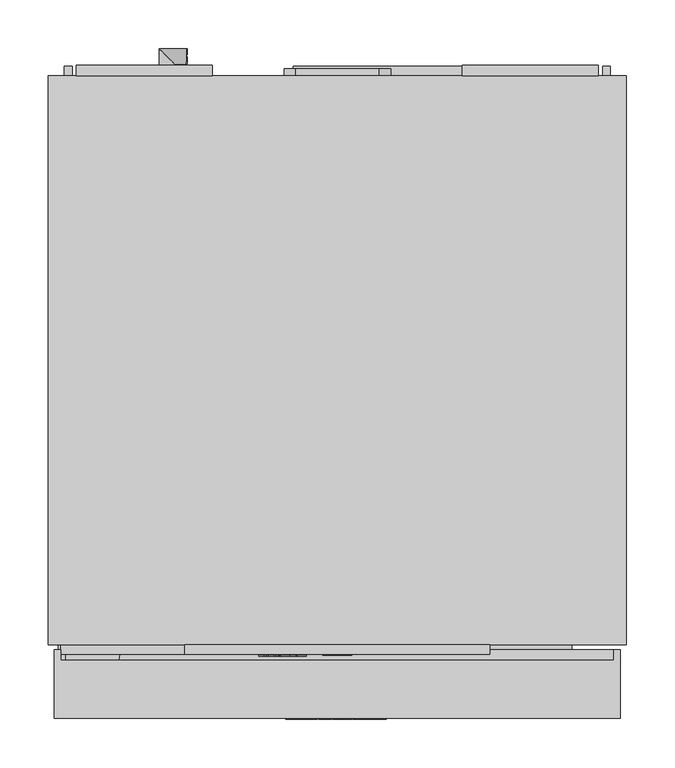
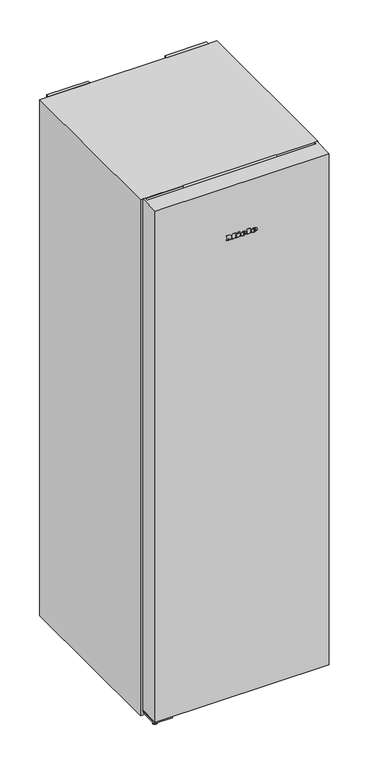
"""IFC4 building model written with IfcOpenShell, lengths in millimetres: proxy geometry, 12430410_EU1_FNS4382D_WS : 37438244_EU1_12430410_FNS4382D_WS."""

from ifc_helpers import new_model, si_unit, point, frame, frame_2d, origin, origin_with_axes, place, context, project, spatial, polyline, circle_curve, ellipse_curve, trimmed, segment, composite_curve, outline, extrude, faceted_brep, source, transform, mapped, element, save
from ifc_brep_helpers import plane_surface, cylinder_surface, revolved_surface, extruded_surface, advanced_brep


def specialty_equipment_e65e2c74(model_context):
    return source(origin(), model_context, "Body", "SolidModel", [
        extrude(outline(polyline([(15.0, -609.5), (-15.0, -609.5), (-15.0, -606.5), (15.0, -606.5), (15.0, -609.5)])), frame((0.0, 0.0, 1812.0), z_axis=(0.0, 0.0, 1.0), x_axis=(1.0, 0.0, 0.0)), (0.0, 0.0, 1.0), 28.0),
        extrude(outline(polyline([(1845.5, 105.0), (1845.5, -105.0), (1806.5, -105.0), (1806.5, 105.0), (1845.5, 105.0)]), holes=[polyline([(1840.0, -15.0), (1840.0, 15.0), (1812.0, 15.0), (1812.0, -15.0), (1840.0, -15.0)])]), frame((0.0, -608.5, 0.0), z_axis=(0.0, 1.0, 0.0), x_axis=(0.0, 0.0, 1.0)), (0.0, 0.0, 1.0), 2.0),
        faceted_brep([(157.5, -598.5, 1802.0), (157.5, -608.5, 1802.0), (-157.5, -608.5, 1802.0), (-157.5, -598.5, 1802.0), (157.5, -598.5, 1850.0), (-157.5, -598.5, 1850.0), (-157.5, -608.5, 1850.0), (157.5, -608.5, 1850.0), (-105.0, -608.5, 1845.5), (105.0, -608.5, 1845.5), (105.0, -608.5, 1806.5), (-105.0, -608.5, 1806.5), (105.0, -606.5, 1845.5), (-105.0, -606.5, 1845.5), (-105.0, -606.5, 1806.5), (105.0, -606.5, 1806.5)], [[[0, 1, 2, 3]], [[4, 5, 6, 7]], [[0, 3, 5, 4]], [[3, 2, 6, 5]], [[2, 1, 7, 6], [8, 9, 10, 11]], [[1, 0, 4, 7]], [[12, 13, 14, 15]], [[13, 12, 9, 8]], [[14, 13, 8, 11]], [[15, 14, 11, 10]], [[12, 15, 10, 9]]]),
        advanced_brep(
        [(39.0804776, -675.5, 1668.7956125), (39.0804776, -675.5, 1670.5126125), (50.4534776, -675.5, 1670.5126125), (30.6654776, -675.5, 1670.5126125), (35.3404776, -675.5, 1664.7666125), (50.1644776, -675.5, 1668.7956125), (45.0304776, -675.5, 1668.7956125), (40.9844776, -675.5, 1666.8916125), (39.0804776, -675.5, 1672.6886125), (39.0804776, -675.5, 1674.5416125), (41.9874776, -675.5, 1674.5416125), (41.9874776, -675.5, 1672.6886125), (39.0804776, -674.5, 1668.7956125), (40.9844776, -674.5, 1666.8916125), (45.0304776, -674.5, 1668.7956125), (50.1644776, -674.5, 1668.7956125), (35.3404776, -674.5, 1664.7666125), (30.6654776, -674.5, 1670.5126125), (50.4534776, -674.5, 1670.5126125), (39.0804776, -674.5, 1670.5126125), (39.0804776, -674.5, 1672.6886125), (41.9874776, -674.5, 1672.6886125), (41.9874776, -674.5, 1674.5416125), (39.0804776, -674.5, 1674.5416125)],
        [
            (0, 1),
            (1, 2),
            (2, 3, ellipse_curve(frame((40.5594776, -675.5, 1670.5126125), z_axis=(0.0, -1.0, 0.0), x_axis=(-1.0, 0.0, 0.0)), 9.894, 8.177)),
            (3, 4, circle_curve(frame((37.2445704, -675.5, 1671.0906125), z_axis=(0.0, -1.0, 0.0), x_axis=(0.0, 0.0, -1.0)), 6.6044337)),
            (4, 5, circle_curve(frame((40.361414, -675.5, 1675.5786125), z_axis=(0.0, -1.0, 0.0), x_axis=(0.0, 0.0, -1.0)), 11.9209541)),
            (5, 6),
            (6, 7, circle_curve(frame((41.8154776, -675.5, 1670.3766125), z_axis=(0.0, 1.0, 0.0), x_axis=(0.0, 0.0, -1.0)), 3.5827065)),
            (7, 0, circle_curve(frame((40.9844776, -675.5, 1668.7956125), z_axis=(0.0, 1.0, 0.0), x_axis=(0.0, 0.0, -1.0)), 1.904)),
            (8, 9),
            (9, 10, circle_curve(frame((40.5339776, -675.5, 1674.5416125), z_axis=(0.0, 1.0, 0.0), x_axis=(0.0, 0.0, -1.0)), 1.4535)),
            (10, 11),
            (11, 8),
            (12, 13, circle_curve(frame((40.9844776, -674.5, 1668.7956125), z_axis=(0.0, -1.0, 0.0), x_axis=(0.0, 0.0, -1.0)), 1.904)),
            (13, 14, circle_curve(frame((41.8154776, -674.5, 1670.3766125), z_axis=(0.0, -1.0, 0.0), x_axis=(0.0, 0.0, -1.0)), 3.5827065)),
            (14, 15),
            (15, 16, circle_curve(frame((40.361414, -674.5, 1675.5786125), z_axis=(0.0, 1.0, 0.0), x_axis=(0.0, 0.0, -1.0)), 11.9209541)),
            (16, 17, circle_curve(frame((37.2445704, -674.5, 1671.0906125), z_axis=(0.0, 1.0, 0.0), x_axis=(0.0, 0.0, -1.0)), 6.6044337)),
            (17, 18, ellipse_curve(frame((40.5594776, -674.5, 1670.5126125), z_axis=(0.0, 1.0, 0.0), x_axis=(-1.0, 0.0, 0.0)), 9.894, 8.177)),
            (18, 19),
            (19, 12),
            (20, 21),
            (21, 22),
            (22, 23, circle_curve(frame((40.5339776, -674.5, 1674.5416125), z_axis=(0.0, -1.0, 0.0), x_axis=(0.0, 0.0, -1.0)), 1.4535)),
            (23, 20),
            (0, 12),
            (19, 1),
            (18, 2),
            (5, 15),
            (14, 6),
            (17, 3),
            (13, 7),
            (16, 4),
            (8, 20),
            (23, 9),
            (22, 10),
            (21, 11),
        ],
        [
            plane_surface(frame((39.0804776, -675.5, 1670.5126125), z_axis=(0.0, -1.0, 0.0), x_axis=(0.0, 0.0, 1.0))),
            plane_surface(frame((39.0804776, -674.5, 1670.5126125), z_axis=(0.0, 1.0, 0.0), x_axis=(0.0, 0.0, -1.0))),
            plane_surface(frame((39.0804776, -675.5, 1668.7956125), z_axis=(1.0, 0.0, 0.0), x_axis=(0.0, 1.0, 0.0))),
            plane_surface(frame((39.0804776, -675.5, 1670.5126125), z_axis=(0.0, 0.0, -1.0), x_axis=(0.0, 1.0, 0.0))),
            plane_surface(frame((50.1644776, -675.5, 1668.7956125), z_axis=(0.0, 0.0, 1.0), x_axis=(0.0, 1.0, 0.0))),
            extruded_surface(trimmed(ellipse_curve(frame((40.5594776, -673.5, 1670.5126125), z_axis=(0.0, -1.0, 0.0), x_axis=(-1.0, 0.0, 0.0)), 9.894, 8.177), [point((50.4534776, -673.5, 1670.5126125))], [point((30.6654776, -673.5, 1670.5126125))], True, "CARTESIAN"), (0.0, -1.0, 0.0), 1.0),
            revolved_surface(polyline([(41.8154776, -674.5, 1666.7939059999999), (41.8154776, -675.5, 1666.7939059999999)]), (41.8154776, -674.5, 1670.3766125), (0.0, 1.0, 0.0)),
            revolved_surface(polyline([(40.9844776, -674.5, 1666.8916125), (40.9844776, -675.5, 1666.8916125)]), (40.9844776, -674.5, 1668.7956125), (0.0, 1.0, 0.0)),
            cylinder_surface(frame((37.2445704, -674.5, 1671.0906125), z_axis=(0.0, -1.0, 0.0), x_axis=(0.0, 0.0, -1.0)), 6.6044337),
            cylinder_surface(frame((40.361414, -674.5, 1675.5786125), z_axis=(0.0, -1.0, 0.0), x_axis=(0.0, 0.0, -1.0)), 11.9209541),
            plane_surface(frame((39.0804776, -675.5, 1672.6886125), z_axis=(1.0, 0.0, 0.0), x_axis=(0.0, 1.0, 0.0))),
            revolved_surface(polyline([(40.5339776, -674.5, 1673.0881124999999), (40.5339776, -675.5, 1673.0881124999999)]), (40.5339776, -674.5, 1674.5416125), (0.0, 1.0, 0.0)),
            plane_surface(frame((41.9874776, -675.5, 1674.5416125), z_axis=(-1.0, 0.0, 0.0), x_axis=(0.0, 1.0, 0.0))),
            plane_surface(frame((41.9874776, -675.5, 1672.6886125), z_axis=(0.0, 0.0, 1.0), x_axis=(0.0, 1.0, 0.0))),
        ],
        [
            (0, [[1, 2, 3, 4, 5, 6, 7, 8], [9, 10, 11, 12]]),
            (1, [[13, 14, 15, 16, 17, 18, 19, 20], [21, 22, 23, 24]]),
            (2, [[-1, 25, -20, 26]]),
            (3, [[-2, -26, -19, 27]]),
            (4, [[-6, 28, -15, 29]]),
            (5, [[-3, -27, -18, 30]]),
            (6, [[-7, -29, -14, 31]]),
            (7, [[-8, -31, -13, -25]]),
            (8, [[-4, -30, -17, 32]]),
            (9, [[-5, -32, -16, -28]]),
            (10, [[-9, 33, -24, 34]]),
            (11, [[-10, -34, -23, 35]]),
            (12, [[-11, -35, -22, 36]]),
            (13, [[-12, -36, -21, -33]]),
        ],
    ),
        advanced_brep(
        [(3.6014776, -675.5, 1668.7956125), (3.6014776, -675.5, 1670.5126125), (14.9744776, -675.5, 1670.5126125), (-4.8135224, -675.5, 1670.5126125), (-0.1385224, -675.5, 1664.7666125), (14.6854776, -675.5, 1668.7956125), (9.5514776, -675.5, 1668.7956125), (5.5054776, -675.5, 1666.8916125), (3.6014776, -675.5, 1672.6886125), (3.6014776, -675.5, 1674.5416125), (6.5084776, -675.5, 1674.5416125), (6.5084776, -675.5, 1672.6886125), (3.6014776, -674.5, 1668.7956125), (5.5054776, -674.5, 1666.8916125), (9.5514776, -674.5, 1668.7956125), (14.6854776, -674.5, 1668.7956125), (-0.1385224, -674.5, 1664.7666125), (-4.8135224, -674.5, 1670.5126125), (14.9744776, -674.5, 1670.5126125), (3.6014776, -674.5, 1670.5126125), (3.6014776, -674.5, 1672.6886125), (6.5084776, -674.5, 1672.6886125), (6.5084776, -674.5, 1674.5416125), (3.6014776, -674.5, 1674.5416125)],
        [
            (0, 1),
            (1, 2),
            (2, 3, ellipse_curve(frame((5.0804776, -675.5, 1670.5126125), z_axis=(0.0, -1.0, 0.0), x_axis=(-1.0, 0.0, 0.0)), 9.894, 8.177)),
            (3, 4, circle_curve(frame((1.7655704, -675.5, 1671.0906125), z_axis=(0.0, -1.0, 0.0), x_axis=(0.0, 0.0, -1.0)), 6.6044337)),
            (4, 5, circle_curve(frame((4.882414, -675.5, 1675.5786125), z_axis=(0.0, -1.0, 0.0), x_axis=(0.0, 0.0, -1.0)), 11.9209541)),
            (5, 6),
            (6, 7, circle_curve(frame((6.3364776, -675.5, 1670.3766125), z_axis=(0.0, 1.0, 0.0), x_axis=(0.0, 0.0, -1.0)), 3.5827065)),
            (7, 0, circle_curve(frame((5.5054776, -675.5, 1668.7956125), z_axis=(0.0, 1.0, 0.0), x_axis=(0.0, 0.0, -1.0)), 1.904)),
            (8, 9),
            (9, 10, circle_curve(frame((5.0549776, -675.5, 1674.5416125), z_axis=(0.0, 1.0, 0.0), x_axis=(0.0, 0.0, -1.0)), 1.4535)),
            (10, 11),
            (11, 8),
            (12, 13, circle_curve(frame((5.5054776, -674.5, 1668.7956125), z_axis=(0.0, -1.0, 0.0), x_axis=(0.0, 0.0, -1.0)), 1.904)),
            (13, 14, circle_curve(frame((6.3364776, -674.5, 1670.3766125), z_axis=(0.0, -1.0, 0.0), x_axis=(0.0, 0.0, -1.0)), 3.5827065)),
            (14, 15),
            (15, 16, circle_curve(frame((4.882414, -674.5, 1675.5786125), z_axis=(0.0, 1.0, 0.0), x_axis=(0.0, 0.0, -1.0)), 11.9209541)),
            (16, 17, circle_curve(frame((1.7655704, -674.5, 1671.0906125), z_axis=(0.0, 1.0, 0.0), x_axis=(0.0, 0.0, -1.0)), 6.6044337)),
            (17, 18, ellipse_curve(frame((5.0804776, -674.5, 1670.5126125), z_axis=(0.0, 1.0, 0.0), x_axis=(-1.0, 0.0, 0.0)), 9.894, 8.177)),
            (18, 19),
            (19, 12),
            (20, 21),
            (21, 22),
            (22, 23, circle_curve(frame((5.0549776, -674.5, 1674.5416125), z_axis=(0.0, -1.0, 0.0), x_axis=(0.0, 0.0, -1.0)), 1.4535)),
            (23, 20),
            (0, 12),
            (19, 1),
            (18, 2),
            (5, 15),
            (14, 6),
            (17, 3),
            (13, 7),
            (16, 4),
            (8, 20),
            (23, 9),
            (22, 10),
            (21, 11),
        ],
        [
            plane_surface(frame((3.6014776, -675.5, 1670.5126125), z_axis=(0.0, -1.0, 0.0), x_axis=(0.0, 0.0, 1.0))),
            plane_surface(frame((3.6014776, -674.5, 1670.5126125), z_axis=(0.0, 1.0, 0.0), x_axis=(0.0, 0.0, -1.0))),
            plane_surface(frame((3.6014776, -675.5, 1668.7956125), z_axis=(1.0, 0.0, 0.0), x_axis=(0.0, 1.0, 0.0))),
            plane_surface(frame((3.6014776, -675.5, 1670.5126125), z_axis=(0.0, 0.0, -1.0), x_axis=(0.0, 1.0, 0.0))),
            plane_surface(frame((14.6854776, -675.5, 1668.7956125), z_axis=(0.0, 0.0, 1.0), x_axis=(0.0, 1.0, 0.0))),
            extruded_surface(trimmed(ellipse_curve(frame((5.0804776, -673.5, 1670.5126125), z_axis=(0.0, -1.0, 0.0), x_axis=(-1.0, 0.0, 0.0)), 9.894, 8.177), [point((14.9744776, -673.5, 1670.5126125))], [point((-4.8135224, -673.5, 1670.5126125))], True, "CARTESIAN"), (0.0, -1.0, 0.0), 1.0),
            revolved_surface(polyline([(6.3364776, -674.5, 1666.7939059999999), (6.3364776, -675.5, 1666.7939059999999)]), (6.3364776, -674.5, 1670.3766125), (0.0, 1.0, 0.0)),
            revolved_surface(polyline([(5.5054776, -674.5, 1666.8916125), (5.5054776, -675.5, 1666.8916125)]), (5.5054776, -674.5, 1668.7956125), (0.0, 1.0, 0.0)),
            cylinder_surface(frame((1.7655704, -674.5, 1671.0906125), z_axis=(0.0, -1.0, 0.0), x_axis=(0.0, 0.0, -1.0)), 6.6044337),
            cylinder_surface(frame((4.882414, -674.5, 1675.5786125), z_axis=(0.0, -1.0, 0.0), x_axis=(0.0, 0.0, -1.0)), 11.9209541),
            plane_surface(frame((3.6014776, -675.5, 1672.6886125), z_axis=(1.0, 0.0, 0.0), x_axis=(0.0, 1.0, 0.0))),
            revolved_surface(polyline([(5.0549776, -674.5, 1673.0881124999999), (5.0549776, -675.5, 1673.0881124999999)]), (5.0549776, -674.5, 1674.5416125), (0.0, 1.0, 0.0)),
            plane_surface(frame((6.5084776, -675.5, 1674.5416125), z_axis=(-1.0, 0.0, 0.0), x_axis=(0.0, 1.0, 0.0))),
            plane_surface(frame((6.5084776, -675.5, 1672.6886125), z_axis=(0.0, 0.0, 1.0), x_axis=(0.0, 1.0, 0.0))),
        ],
        [
            (0, [[1, 2, 3, 4, 5, 6, 7, 8], [9, 10, 11, 12]]),
            (1, [[13, 14, 15, 16, 17, 18, 19, 20], [21, 22, 23, 24]]),
            (2, [[-1, 25, -20, 26]]),
            (3, [[-2, -26, -19, 27]]),
            (4, [[-6, 28, -15, 29]]),
            (5, [[-3, -27, -18, 30]]),
            (6, [[-7, -29, -14, 31]]),
            (7, [[-8, -31, -13, -25]]),
            (8, [[-4, -30, -17, 32]]),
            (9, [[-5, -32, -16, -28]]),
            (10, [[-9, 33, -24, 34]]),
            (11, [[-10, -34, -23, 35]]),
            (12, [[-11, -35, -22, 36]]),
            (13, [[-12, -36, -21, -33]]),
        ],
    ),
        extrude(outline(polyline([(1680.7636125, -14.9795224), (1678.0096125, -13.6875224), (1680.6956125, -7.9245224), (1683.4496125, -9.1995224), (1680.7636125, -14.9795224)])), frame((0.0, -675.5, 0.0), z_axis=(0.0, 1.0, 0.0), x_axis=(0.0, 0.0, 1.0)), (0.0, 0.0, 1.0), 1.0),
        extrude(outline(polyline([(1677.6356125, -19.1785224), (1674.5926125, -19.1785224), (1674.5926125, -17.1555224), (1667.6226125, -17.1555224), (1667.6226125, -19.1785224), (1664.7666125, -19.1785224), (1664.7666125, -5.7655224), (1667.6226125, -5.7655224), (1667.6226125, -7.7375224), (1677.6356125, -7.7375224), (1677.6356125, -19.1785224)])), frame((0.0, -675.5, 0.0), z_axis=(0.0, 1.0, 0.0), x_axis=(0.0, 0.0, 1.0)), (0.0, 0.0, 1.0), 1.0),
        extrude(outline(polyline([(1678.9956125, 15.9264776), (1678.9956125, 17.9664776), (1667.6226125, 17.9664776), (1667.6226125, 15.9264776), (1664.7666125, 15.9264776), (1664.7666125, 29.7134776), (1667.6226125, 29.7134776), (1667.6226125, 27.6224776), (1681.7666125, 27.6224776), (1681.7666125, 15.9264776), (1678.9956125, 15.9264776)])), frame((0.0, -675.5, 0.0), z_axis=(0.0, 1.0, 0.0), x_axis=(0.0, 0.0, 1.0)), (0.0, 0.0, 1.0), 1.0),
        extrude(outline(polyline([(1678.9956125, -53.0595224), (1678.9956125, -51.0025224), (1667.6226125, -51.0025224), (1667.6226125, -53.0595224), (1664.7666125, -53.0595224), (1664.7666125, -45.5795224), (1667.6226125, -45.5795224), (1667.6226125, -47.6195224), (1674.7967372, -47.6195224), (1664.7666125, -40.0205224), (1675.2068348, -32.3875224), (1667.6226125, -32.3875224), (1667.6226125, -34.4785224), (1664.7666125, -34.4785224), (1664.7666125, -20.9125224), (1667.6226125, -20.9125224), (1667.6226125, -23.0715224), (1678.9956125, -23.0715224), (1678.9956125, -20.9125224), (1681.7666125, -20.9125224), (1681.7666125, -31.2655224), (1675.3916125, -36.2295224), (1681.7666125, -41.2105224), (1681.7666125, -53.0595224), (1678.9956125, -53.0595224)])), frame((0.0, -675.5, 0.0), z_axis=(0.0, 1.0, 0.0), x_axis=(0.0, 0.0, 1.0)), (0.0, 0.0, 1.0), 1.0),
        advanced_brep(
        [(-37.64, -610.5, 1828.896), (-37.64, -610.5, 1829.704), (-32.288, -610.5, 1829.704), (-41.6, -610.5, 1829.704), (-39.4, -610.5, 1827.0), (-32.424, -610.5, 1828.896), (-34.84, -610.5, 1828.896), (-36.744, -610.5, 1828.0), (-37.64, -610.5, 1830.728), (-37.64, -610.5, 1831.6), (-36.272, -610.5, 1831.6), (-36.272, -610.5, 1830.728), (-37.64, -609.5, 1828.896), (-36.744, -609.5, 1828.0), (-34.84, -609.5, 1828.896), (-32.424, -609.5, 1828.896), (-39.4, -609.5, 1827.0), (-41.6, -609.5, 1829.704), (-32.288, -609.5, 1829.704), (-37.64, -609.5, 1829.704), (-37.64, -609.5, 1830.728), (-36.272, -609.5, 1830.728), (-36.272, -609.5, 1831.6), (-37.64, -609.5, 1831.6)],
        [
            (0, 1),
            (1, 2),
            (2, 3, ellipse_curve(frame((-36.944, -610.5, 1829.704), z_axis=(0.0, -1.0, 0.0), x_axis=(-1.0, 0.0, 0.0)), 4.656, 3.848)),
            (3, 4, circle_curve(frame((-38.5039564, -610.5, 1829.976), z_axis=(0.0, -1.0, 0.0), x_axis=(0.0, 0.0, -1.0)), 3.1079688)),
            (4, 5, circle_curve(frame((-37.0372064, -610.5, 1832.088), z_axis=(0.0, -1.0, 0.0), x_axis=(0.0, 0.0, -1.0)), 5.6098607)),
            (5, 6),
            (6, 7, circle_curve(frame((-36.3529412, -610.5, 1829.64), z_axis=(0.0, 1.0, 0.0), x_axis=(0.0, 0.0, -1.0)), 1.6859795)),
            (7, 0, circle_curve(frame((-36.744, -610.5, 1828.896), z_axis=(0.0, 1.0, 0.0), x_axis=(0.0, 0.0, -1.0)), 0.896)),
            (8, 9),
            (9, 10, circle_curve(frame((-36.956, -610.5, 1831.6), z_axis=(0.0, 1.0, 0.0), x_axis=(0.0, 0.0, -1.0)), 0.684)),
            (10, 11),
            (11, 8),
            (12, 13, circle_curve(frame((-36.744, -609.5, 1828.896), z_axis=(0.0, -1.0, 0.0), x_axis=(0.0, 0.0, -1.0)), 0.896)),
            (13, 14, circle_curve(frame((-36.3529412, -609.5, 1829.64), z_axis=(0.0, -1.0, 0.0), x_axis=(0.0, 0.0, -1.0)), 1.6859795)),
            (14, 15),
            (15, 16, circle_curve(frame((-37.0372064, -609.5, 1832.088), z_axis=(0.0, 1.0, 0.0), x_axis=(0.0, 0.0, -1.0)), 5.6098607)),
            (16, 17, circle_curve(frame((-38.5039564, -609.5, 1829.976), z_axis=(0.0, 1.0, 0.0), x_axis=(0.0, 0.0, -1.0)), 3.1079688)),
            (17, 18, ellipse_curve(frame((-36.944, -609.5, 1829.704), z_axis=(0.0, 1.0, 0.0), x_axis=(-1.0, 0.0, 0.0)), 4.656, 3.848)),
            (18, 19),
            (19, 12),
            (20, 21),
            (21, 22),
            (22, 23, circle_curve(frame((-36.956, -609.5, 1831.6), z_axis=(0.0, -1.0, 0.0), x_axis=(0.0, 0.0, -1.0)), 0.684)),
            (23, 20),
            (0, 12),
            (19, 1),
            (18, 2),
            (5, 15),
            (14, 6),
            (17, 3),
            (13, 7),
            (16, 4),
            (8, 20),
            (23, 9),
            (22, 10),
            (21, 11),
        ],
        [
            plane_surface(frame((-37.64, -610.5, 1829.704), z_axis=(0.0, -1.0, 0.0), x_axis=(0.0, 0.0, 1.0))),
            plane_surface(frame((-37.64, -609.5, 1829.704), z_axis=(0.0, 1.0, 0.0), x_axis=(0.0, 0.0, -1.0))),
            plane_surface(frame((-37.64, -610.5, 1828.896), z_axis=(1.0, 0.0, 0.0), x_axis=(0.0, 1.0, 0.0))),
            plane_surface(frame((-37.64, -610.5, 1829.704), z_axis=(0.0, 0.0, -1.0), x_axis=(0.0, 1.0, 0.0))),
            plane_surface(frame((-32.424, -610.5, 1828.896), z_axis=(0.0, 0.0, 1.0), x_axis=(0.0, 1.0, 0.0))),
            extruded_surface(trimmed(ellipse_curve(frame((-36.944, -608.5, 1829.704), z_axis=(0.0, -1.0, 0.0), x_axis=(-1.0, 0.0, 0.0)), 4.656, 3.848), [point((-32.288, -608.5, 1829.704))], [point((-41.6, -608.5, 1829.704))], True, "CARTESIAN"), (0.0, -1.0, 0.0), 1.0),
            revolved_surface(polyline([(-36.3529412, -609.5, 1827.9540205), (-36.3529412, -610.5, 1827.9540205)]), (-36.3529412, -609.5, 1829.64), (0.0, 1.0, 0.0)),
            revolved_surface(polyline([(-36.744, -609.5, 1828.0), (-36.744, -610.5, 1828.0)]), (-36.744, -609.5, 1828.896), (0.0, 1.0, 0.0)),
            cylinder_surface(frame((-38.5039564, -609.5, 1829.976), z_axis=(0.0, -1.0, 0.0), x_axis=(0.0, 0.0, -1.0)), 3.1079688),
            cylinder_surface(frame((-37.0372064, -609.5, 1832.088), z_axis=(0.0, -1.0, 0.0), x_axis=(0.0, 0.0, -1.0)), 5.6098607),
            plane_surface(frame((-37.64, -610.5, 1830.728), z_axis=(1.0, 0.0, 0.0), x_axis=(0.0, 1.0, 0.0))),
            revolved_surface(polyline([(-36.956, -609.5, 1830.916), (-36.956, -610.5, 1830.916)]), (-36.956, -609.5, 1831.6), (0.0, 1.0, 0.0)),
            plane_surface(frame((-36.272, -610.5, 1831.6), z_axis=(-1.0, 0.0, 0.0), x_axis=(0.0, 1.0, 0.0))),
            plane_surface(frame((-36.272, -610.5, 1830.728), z_axis=(0.0, 0.0, 1.0), x_axis=(0.0, 1.0, 0.0))),
        ],
        [
            (0, [[1, 2, 3, 4, 5, 6, 7, 8], [9, 10, 11, 12]]),
            (1, [[13, 14, 15, 16, 17, 18, 19, 20], [21, 22, 23, 24]]),
            (2, [[-1, 25, -20, 26]]),
            (3, [[-2, -26, -19, 27]]),
            (4, [[-6, 28, -15, 29]]),
            (5, [[-3, -27, -18, 30]]),
            (6, [[-7, -29, -14, 31]]),
            (7, [[-8, -31, -13, -25]]),
            (8, [[-4, -30, -17, 32]]),
            (9, [[-5, -32, -16, -28]]),
            (10, [[-9, 33, -24, 34]]),
            (11, [[-10, -34, -23, 35]]),
            (12, [[-11, -35, -22, 36]]),
            (13, [[-12, -36, -21, -33]]),
        ],
    ),
        advanced_brep(
        [(-54.336, -610.5, 1828.896), (-54.336, -610.5, 1829.704), (-48.984, -610.5, 1829.704), (-58.296, -610.5, 1829.704), (-56.096, -610.5, 1827.0), (-49.12, -610.5, 1828.896), (-51.536, -610.5, 1828.896), (-53.44, -610.5, 1828.0), (-54.336, -610.5, 1830.728), (-54.336, -610.5, 1831.6), (-52.968, -610.5, 1831.6), (-52.968, -610.5, 1830.728), (-54.336, -609.5, 1828.896), (-53.44, -609.5, 1828.0), (-51.536, -609.5, 1828.896), (-49.12, -609.5, 1828.896), (-56.096, -609.5, 1827.0), (-58.296, -609.5, 1829.704), (-48.984, -609.5, 1829.704), (-54.336, -609.5, 1829.704), (-54.336, -609.5, 1830.728), (-52.968, -609.5, 1830.728), (-52.968, -609.5, 1831.6), (-54.336, -609.5, 1831.6)],
        [
            (0, 1),
            (1, 2),
            (2, 3, ellipse_curve(frame((-53.64, -610.5, 1829.704), z_axis=(0.0, -1.0, 0.0), x_axis=(-1.0, 0.0, 0.0)), 4.656, 3.848)),
            (3, 4, circle_curve(frame((-55.1999564, -610.5, 1829.976), z_axis=(0.0, -1.0, 0.0), x_axis=(0.0, 0.0, -1.0)), 3.1079688)),
            (4, 5, circle_curve(frame((-53.7332064, -610.5, 1832.088), z_axis=(0.0, -1.0, 0.0), x_axis=(0.0, 0.0, -1.0)), 5.6098607)),
            (5, 6),
            (6, 7, circle_curve(frame((-53.0489412, -610.5, 1829.64), z_axis=(0.0, 1.0, 0.0), x_axis=(0.0, 0.0, -1.0)), 1.6859795)),
            (7, 0, circle_curve(frame((-53.44, -610.5, 1828.896), z_axis=(0.0, 1.0, 0.0), x_axis=(0.0, 0.0, -1.0)), 0.896)),
            (8, 9),
            (9, 10, circle_curve(frame((-53.652, -610.5, 1831.6), z_axis=(0.0, 1.0, 0.0), x_axis=(0.0, 0.0, -1.0)), 0.684)),
            (10, 11),
            (11, 8),
            (12, 13, circle_curve(frame((-53.44, -609.5, 1828.896), z_axis=(0.0, -1.0, 0.0), x_axis=(0.0, 0.0, -1.0)), 0.896)),
            (13, 14, circle_curve(frame((-53.0489412, -609.5, 1829.64), z_axis=(0.0, -1.0, 0.0), x_axis=(0.0, 0.0, -1.0)), 1.6859795)),
            (14, 15),
            (15, 16, circle_curve(frame((-53.7332064, -609.5, 1832.088), z_axis=(0.0, 1.0, 0.0), x_axis=(0.0, 0.0, -1.0)), 5.6098607)),
            (16, 17, circle_curve(frame((-55.1999564, -609.5, 1829.976), z_axis=(0.0, 1.0, 0.0), x_axis=(0.0, 0.0, -1.0)), 3.1079688)),
            (17, 18, ellipse_curve(frame((-53.64, -609.5, 1829.704), z_axis=(0.0, 1.0, 0.0), x_axis=(-1.0, 0.0, 0.0)), 4.656, 3.848)),
            (18, 19),
            (19, 12),
            (20, 21),
            (21, 22),
            (22, 23, circle_curve(frame((-53.652, -609.5, 1831.6), z_axis=(0.0, -1.0, 0.0), x_axis=(0.0, 0.0, -1.0)), 0.684)),
            (23, 20),
            (0, 12),
            (19, 1),
            (18, 2),
            (5, 15),
            (14, 6),
            (17, 3),
            (13, 7),
            (16, 4),
            (8, 20),
            (23, 9),
            (22, 10),
            (21, 11),
        ],
        [
            plane_surface(frame((-54.336, -610.5, 1829.704), z_axis=(0.0, -1.0, 0.0), x_axis=(0.0, 0.0, 1.0))),
            plane_surface(frame((-54.336, -609.5, 1829.704), z_axis=(0.0, 1.0, 0.0), x_axis=(0.0, 0.0, -1.0))),
            plane_surface(frame((-54.336, -610.5, 1828.896), z_axis=(1.0, 0.0, 0.0), x_axis=(0.0, 1.0, 0.0))),
            plane_surface(frame((-54.336, -610.5, 1829.704), z_axis=(0.0, 0.0, -1.0), x_axis=(0.0, 1.0, 0.0))),
            plane_surface(frame((-49.12, -610.5, 1828.896), z_axis=(0.0, 0.0, 1.0), x_axis=(0.0, 1.0, 0.0))),
            extruded_surface(trimmed(ellipse_curve(frame((-53.64, -608.5, 1829.704), z_axis=(0.0, -1.0, 0.0), x_axis=(-1.0, 0.0, 0.0)), 4.656, 3.848), [point((-48.984, -608.5, 1829.704))], [point((-58.296, -608.5, 1829.704))], True, "CARTESIAN"), (0.0, -1.0, 0.0), 1.0),
            revolved_surface(polyline([(-53.0489412, -609.5, 1827.9540205), (-53.0489412, -610.5, 1827.9540205)]), (-53.0489412, -609.5, 1829.64), (0.0, 1.0, 0.0)),
            revolved_surface(polyline([(-53.44, -609.5, 1828.0), (-53.44, -610.5, 1828.0)]), (-53.44, -609.5, 1828.896), (0.0, 1.0, 0.0)),
            cylinder_surface(frame((-55.1999564, -609.5, 1829.976), z_axis=(0.0, -1.0, 0.0), x_axis=(0.0, 0.0, -1.0)), 3.1079688),
            cylinder_surface(frame((-53.7332064, -609.5, 1832.088), z_axis=(0.0, -1.0, 0.0), x_axis=(0.0, 0.0, -1.0)), 5.6098607),
            plane_surface(frame((-54.336, -610.5, 1830.728), z_axis=(1.0, 0.0, 0.0), x_axis=(0.0, 1.0, 0.0))),
            revolved_surface(polyline([(-53.652, -609.5, 1830.916), (-53.652, -610.5, 1830.916)]), (-53.652, -609.5, 1831.6), (0.0, 1.0, 0.0)),
            plane_surface(frame((-52.968, -610.5, 1831.6), z_axis=(-1.0, 0.0, 0.0), x_axis=(0.0, 1.0, 0.0))),
            plane_surface(frame((-52.968, -610.5, 1830.728), z_axis=(0.0, 0.0, 1.0), x_axis=(0.0, 1.0, 0.0))),
        ],
        [
            (0, [[1, 2, 3, 4, 5, 6, 7, 8], [9, 10, 11, 12]]),
            (1, [[13, 14, 15, 16, 17, 18, 19, 20], [21, 22, 23, 24]]),
            (2, [[-1, 25, -20, 26]]),
            (3, [[-2, -26, -19, 27]]),
            (4, [[-6, 28, -15, 29]]),
            (5, [[-3, -27, -18, 30]]),
            (6, [[-7, -29, -14, 31]]),
            (7, [[-8, -31, -13, -25]]),
            (8, [[-4, -30, -17, 32]]),
            (9, [[-5, -32, -16, -28]]),
            (10, [[-9, 33, -24, 34]]),
            (11, [[-10, -34, -23, 35]]),
            (12, [[-11, -35, -22, 36]]),
            (13, [[-12, -36, -21, -33]]),
        ],
    ),
        extrude(outline(polyline([(1834.528, -63.08), (1833.232, -62.472), (1834.496, -59.76), (1835.792, -60.36), (1834.528, -63.08)])), frame((0.0, -610.5, 0.0), z_axis=(0.0, 1.0, 0.0), x_axis=(0.0, 0.0, 1.0)), (0.0, 0.0, 1.0), 1.0),
        extrude(outline(polyline([(1833.056, -65.056), (1831.624, -65.056), (1831.624, -64.104), (1828.344, -64.104), (1828.344, -65.056), (1827.0, -65.056), (1827.0, -58.744), (1828.344, -58.744), (1828.344, -59.672), (1833.056, -59.672), (1833.056, -65.056)])), frame((0.0, -610.5, 0.0), z_axis=(0.0, 1.0, 0.0), x_axis=(0.0, 0.0, 1.0)), (0.0, 0.0, 1.0), 1.0),
        extrude(outline(polyline([(1833.696, -48.536), (1833.696, -47.576), (1828.344, -47.576), (1828.344, -48.536), (1827.0, -48.536), (1827.0, -42.048), (1828.344, -42.048), (1828.344, -43.032), (1835.0, -43.032), (1835.0, -48.536), (1833.696, -48.536)])), frame((0.0, -610.5, 0.0), z_axis=(0.0, 1.0, 0.0), x_axis=(0.0, 0.0, 1.0)), (0.0, 0.0, 1.0), 1.0),
        extrude(outline(polyline([(1833.696, -81.0), (1833.696, -80.032), (1828.344, -80.032), (1828.344, -81.0), (1827.0, -81.0), (1827.0, -77.48), (1828.344, -77.48), (1828.344, -78.44), (1831.7471247, -78.44), (1827.0, -74.864), (1831.8152223, -71.272), (1828.344, -71.272), (1828.344, -72.256), (1827.0, -72.256), (1827.0, -65.872), (1828.344, -65.872), (1828.344, -66.888), (1833.696, -66.888), (1833.696, -65.872), (1835.0, -65.872), (1835.0, -70.744), (1832.0, -73.08), (1835.0, -75.424), (1835.0, -81.0), (1833.696, -81.0)])), frame((0.0, -610.5, 0.0), z_axis=(0.0, 1.0, 0.0), x_axis=(0.0, 0.0, 1.0)), (0.0, 0.0, 1.0), 1.0),
        extrude(outline(polyline([(-42.8527823, 0.0), (-48.1304417, 3.2708192), (-29.8908031, 3.2708192), (-34.9274229, 0.0), (-42.8527823, 0.0)])), frame((238.5469678, 0.0, 0.0), z_axis=(1.0, 0.0, 0.0), x_axis=(0.0, 1.0, 0.0)), (0.0, 0.0, 1.0), 15.1632647),
        extrude(outline(polyline([(-42.8527823, 0.0), (-48.1304417, 3.2708192), (-29.8908031, 3.2708192), (-34.9274229, 0.0), (-42.8527823, 0.0)])), frame((-253.7102325, 0.0, 0.0), z_axis=(1.0, 0.0, 0.0), x_axis=(0.0, 1.0, 0.0)), (0.0, 0.0, 1.0), 15.1632647),
        extrude(outline(polyline([(2.1227397, 65.0), (2.1227397, 75.045631), (9.343037, 75.045631), (9.343037, 73.7899271), (3.3784436, 73.7899271), (3.3784436, 70.8076304), (9.029111, 70.8076304), (9.029111, 69.5519266), (3.3784436, 69.5519266), (3.3784436, 66.2557039), (9.5, 66.2557039), (9.5, 65.0), (2.1227397, 65.0)])), frame((-156.0615355, 0.0, 0.0), z_axis=(1.0, 0.0, 0.0), x_axis=(0.0, 1.0, 0.0)), (0.0, 0.0, 1.0), 1.0),
        extrude(outline(polyline([(11.3835558, 65.0), (11.3835558, 75.045631), (12.6392597, 75.045631), (12.6392597, 66.2557039), (17.6620752, 66.2557039), (17.6620752, 65.0), (11.3835558, 65.0)])), frame((-156.0615355, 0.0, 0.0), z_axis=(1.0, 0.0, 0.0), x_axis=(0.0, 1.0, 0.0)), (0.0, 0.0, 1.0), 1.0),
        advanced_brep(
        [(-168.0615355, -10.5, 70.0), (-184.0615355, -10.5, 70.0), (-168.0615355, 1.5, 70.0), (-184.0615355, 17.5, 70.0), (-156.0615355, 1.5, 70.0), (-156.0615355, 17.5, 70.0)],
        [
            (0, 1, circle_curve(frame((-176.0615355, -10.5, 70.0), z_axis=(0.0, -1.0, 0.0), x_axis=(-1.0, 0.0, 0.0)), 8.0)),
            (1, 0, circle_curve(frame((-176.0615355, -10.5, 70.0), z_axis=(0.0, -1.0, 0.0), x_axis=(-1.0, 0.0, 0.0)), 8.0)),
            (0, 2),
            (2, 3, ellipse_curve(frame((-176.0615355, 9.5, 70.0), z_axis=(-0.7071067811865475, -0.7071067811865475, 0.0), x_axis=(0.7071067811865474, -0.7071067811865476, 0.0)), 11.3137085, 8.0)),
            (3, 1),
            (3, 2, ellipse_curve(frame((-176.0615355, 9.5, 70.0), z_axis=(-0.7071067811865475, -0.7071067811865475, 0.0), x_axis=(0.7071067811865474, -0.7071067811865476, 0.0)), 11.3137085, 8.0)),
            (4, 5, circle_curve(frame((-156.0615355, 9.5, 70.0), z_axis=(1.0, 0.0, 0.0), x_axis=(0.0, 1.0, 0.0)), 8.0)),
            (5, 4, circle_curve(frame((-156.0615355, 9.5, 70.0), z_axis=(1.0, 0.0, 0.0), x_axis=(0.0, 1.0, 0.0)), 8.0)),
            (2, 4),
            (5, 3),
        ],
        [
            plane_surface(frame((-176.0615355, -10.5, 0.0), z_axis=(0.0, -1.0, 0.0), x_axis=(0.0, 0.0, 1.0))),
            cylinder_surface(frame((-176.0615355, -10.5, 70.0), z_axis=(0.0, -1.0, 0.0), x_axis=(-1.0, 0.0, 0.0)), 8.0),
            plane_surface(frame((-156.0615355, 9.5, 0.0), z_axis=(1.0, 0.0, 0.0), x_axis=(0.0, 0.0, 1.0))),
            cylinder_surface(frame((-176.0615355, 9.5, 70.0), z_axis=(-1.0, 0.0, 0.0), x_axis=(0.0, 1.0, 0.0)), 8.0),
        ],
        [
            (0, [[1, 2]]),
            (1, [[-1, 3, 4, 5]]),
            (1, [[-2, -5, 6, -3]]),
            (2, [[7, 8]]),
            (3, [[-4, 9, -8, 10]]),
            (3, [[-6, -10, -7, -9]]),
        ],
    ),
        extrude(outline(polyline([(-118.9841834, 15.0), (-62.9841834, 15.0), (-75.5706779, 0.0), (-106.3976889, 0.0), (-118.9841834, 15.0)])), frame((-288.5, 0.0, 0.0), z_axis=(1.0, 0.0, 0.0), x_axis=(0.0, 1.0, 0.0)), (0.0, 0.0, 1.0), 16.0),
        extrude(outline(polyline([(-118.9841834, 15.0), (-62.9841834, 15.0), (-75.5706779, 0.0), (-106.3976889, 0.0), (-118.9841834, 15.0)])), frame((272.5, 0.0, 0.0), z_axis=(1.0, 0.0, 0.0), x_axis=(0.0, 1.0, 0.0)), (0.0, 0.0, 1.0), 16.0),
        extrude(outline(polyline([(281.8051758, -10.5), (274.2947998, -10.5), (274.2947998, -0.5), (281.8051758, -0.5), (281.8051758, -10.5)])), frame((0.0, 0.0, 239.4947815), z_axis=(0.0, 0.0, 1.0), x_axis=(1.0, 0.0, 0.0)), (0.0, 0.0, 1.0), 18.4103699),
        extrude(outline(polyline([(-274.0827332, -10.5), (-282.1051331, -10.5), (-282.1051331, -0.5), (-274.0827332, -0.5), (-274.0827332, -10.5)])), frame((0.0, 0.0, 239.4947815), z_axis=(0.0, 0.0, 1.0), x_axis=(1.0, 0.0, 0.0)), (0.0, 0.0, 1.0), 18.3224792),
        extrude(outline(polyline([(190.0, 177.5), (133.0, 177.5), (133.0, -45.5), (64.0, -45.5), (64.0, 258.5), (190.0, 258.5), (190.0, 177.5)])), frame((0.0, -10.5, 0.0), z_axis=(0.0, 1.0, 0.0), x_axis=(0.0, 0.0, 1.0)), (0.0, 0.0, 1.0), 10.0),
        extrude(outline(polyline([(269.5372046, -10.5), (129.0, -10.5), (129.0, 0.0), (269.5372046, 0.0), (269.5372046, -10.5)])), frame((0.0, 0.0, 1826.0), z_axis=(0.0, 0.0, 1.0), x_axis=(1.0, 0.0, 0.0)), (0.0, 0.0, 1.0), 24.0),
        extrude(outline(polyline([(-129.0, -10.5), (-269.5372046, -10.5), (-269.5372046, 0.0), (-129.0, 0.0), (-129.0, -10.5)])), frame((0.0, 0.0, 1826.0), z_axis=(0.0, 0.0, 1.0), x_axis=(1.0, 0.0, 0.0)), (0.0, 0.0, 1.0), 24.0),
        extrude(outline(polyline([(64.0, -159.5), (-64.0, -159.5), (-64.0, -71.5), (64.0, -71.5), (64.0, -159.5)])), frame((0.0, 0.0, 1636.0), z_axis=(0.0, 0.0, 1.0), x_axis=(1.0, 0.0, 0.0)), (0.0, 0.0, 1.0), 177.6535004),
        extrude(outline(polyline([(55.0, -521.5), (55.0, -575.5), (-55.0, -575.5), (-55.0, -521.5), (55.0, -521.5)])), frame((0.0, 0.0, 1759.0), z_axis=(0.0, 0.0, 1.0), x_axis=(1.0, 0.0, 0.0)), (0.0, 0.0, 1.0), 1.0),
        extrude(outline(composite_curve([segment(trimmed(circle_curve(frame_2d((-248.75, -584.5)), 10.0), [point((-258.75, -584.5))], [point((-238.75, -584.5))], False, "CARTESIAN"), True, "CONTINUOUS"), segment(trimmed(circle_curve(frame_2d((-248.75, -584.5)), 10.0), [point((-238.75, -584.5))], [point((-258.75, -584.5))], False, "CARTESIAN"), True, "CONTINUOUS")], self_intersect=False)), origin_with_axes(), (0.0, 0.0, 1.0), 15.0),
        extrude(outline(composite_curve([segment(trimmed(circle_curve(frame_2d((248.75, -584.4761218)), 10.0), [point((238.75, -584.4761218))], [point((258.75, -584.4761218))], False, "CARTESIAN"), True, "CONTINUOUS"), segment(trimmed(circle_curve(frame_2d((248.75, -584.4761218)), 10.0), [point((258.75, -584.4761218))], [point((238.75, -584.4761218))], False, "CARTESIAN"), True, "CONTINUOUS")], self_intersect=False)), origin_with_axes(), (0.0, 0.0, 1.0), 15.0),
        extrude(outline(polyline([(240.0, -290.5), (-240.0, -290.5), (-240.0, -71.5), (240.0, -71.5), (240.0, -290.5)])), frame((0.0, 0.0, 129.0), z_axis=(0.0, 0.0, 1.0), x_axis=(1.0, 0.0, 0.0)), (0.0, 0.0, 1.0), 190.0),
        extrude(outline(composite_curve([segment(trimmed(circle_curve(frame_2d((1162.0, -43.0)), 12.0), [point((1174.0, -43.0))], [point((1162.0, -55.0))], False, "CARTESIAN"), True, "CONTINUOUS"), segment(polyline([(1162.0, -55.0), (1138.0, -55.0)]), True, "CONTINUOUS"), segment(trimmed(circle_curve(frame_2d((1138.0, -43.0)), 12.0), [point((1138.0, -55.0))], [point((1126.0, -43.0))], False, "CARTESIAN"), True, "CONTINUOUS"), segment(polyline([(1126.0, -43.0), (1126.0, 43.0)]), True, "CONTINUOUS"), segment(trimmed(circle_curve(frame_2d((1138.0, 43.0)), 12.0), [point((1126.0, 43.0))], [point((1138.0, 55.0))], False, "CARTESIAN"), True, "CONTINUOUS"), segment(polyline([(1138.0, 55.0), (1162.0, 55.0)]), True, "CONTINUOUS"), segment(trimmed(circle_curve(frame_2d((1162.0, 43.0)), 12.0), [point((1162.0, 55.0))], [point((1174.0, 43.0))], False, "CARTESIAN"), True, "CONTINUOUS"), segment(polyline([(1174.0, 43.0), (1174.0, -43.0)]), True, "CONTINUOUS")], self_intersect=False)), frame((0.0, -10.5, 0.0), z_axis=(0.0, 1.0, 0.0), x_axis=(0.0, 0.0, 1.0)), (0.0, 0.0, 1.0), 7.0),
        extrude(outline(polyline([(272.5, -28.6436023), (272.5, -529.6387407), (-272.5, -529.6387407), (-272.5, -28.6436023), (272.5, -28.6436023)])), frame((0.0, 0.0, 3.2708192), z_axis=(0.0, 0.0, 1.0), x_axis=(1.0, 0.0, 0.0)), (0.0, 0.0, 1.0), 11.7291808),
        faceted_brep([(298.5, -10.5, 1850.0), (-298.5, -10.5, 1850.0), (-298.5, -598.5, 1850.0), (298.5, -598.5, 1850.0), (298.5, -10.5, 15.0), (298.5, -598.5, 15.0), (-298.5, -598.5, 15.0), (-298.5, -10.5, 15.0), (-240.0, -598.5, 1760.0), (240.0, -598.5, 1760.0), (240.0, -598.5, 129.0), (-240.0, -598.5, 129.0), (-240.0, -468.5, 1760.0), (240.0, -468.5, 1760.0), (240.0, -71.5, 129.0), (-240.0, -71.5, 129.0), (240.0, -71.5, 1813.6535004), (-240.0, -71.5, 1813.6535004), (-240.0, -468.5, 1813.6535004), (240.0, -468.5, 1813.6535004)], [[[0, 1, 2, 3]], [[4, 5, 6, 7]], [[1, 0, 4, 7]], [[2, 1, 7, 6]], [[3, 2, 6, 5], [8, 9, 10, 11]], [[0, 3, 5, 4]], [[9, 8, 12, 13]], [[14, 15, 11, 10]], [[15, 14, 16, 17]], [[15, 17, 18, 12, 8, 11]], [[16, 14, 10, 9, 13, 19]], [[19, 18, 17, 16]], [[18, 19, 13, 12]]]),
        extrude(outline(composite_curve([segment(trimmed(circle_curve(frame_2d((-276.9539666, -644.7854989)), 7.0), [point((-269.9539666, -644.7854989))], [point((-283.9539666, -644.7854989))], False, "CARTESIAN"), True, "CONTINUOUS"), segment(trimmed(circle_curve(frame_2d((-276.9539666, -644.7854989)), 7.0), [point((-283.9539666, -644.7854989))], [point((-269.9539666, -644.7854989))], False, "CARTESIAN"), True, "CONTINUOUS")], self_intersect=False)), frame((0.0, 0.0, 10.0), z_axis=(0.0, 0.0, 1.0), x_axis=(1.0, 0.0, 0.0)), (0.0, 0.0, 1.0), 11.0),
        extrude(outline(polyline([(-227.8680756, -660.5), (-291.8779467, -660.5), (-291.8779467, -603.5), (-227.8680756, -603.5), (-227.8680756, -660.5)])), frame((0.0, 0.0, 31.5014777), z_axis=(0.0, 0.0, 1.0), x_axis=(1.0, 0.0, 0.0)), (0.0, 0.0, 1.0), 4.4985223),
        extrude(outline(composite_curve([segment(trimmed(circle_curve(frame_2d((-274.5, -642.5)), 10.0), [point((-264.5, -642.5))], [point((-284.5, -642.5))], False, "CARTESIAN"), True, "CONTINUOUS"), segment(trimmed(circle_curve(frame_2d((-274.5, -642.5)), 10.0), [point((-284.5, -642.5))], [point((-264.5, -642.5))], False, "CARTESIAN"), True, "CONTINUOUS")], self_intersect=False)), frame((0.0, 0.0, 27.5), z_axis=(0.0, 0.0, 1.0), x_axis=(1.0, 0.0, 0.0)), (0.0, 0.0, 1.0), 4.5),
        extrude(outline(polyline([(242.0, -603.5), (-242.0, -603.5), (-242.0, -598.5), (242.0, -598.5), (242.0, -603.5)])), frame((0.0, 0.0, 128.0014777), z_axis=(0.0, 0.0, 1.0), x_axis=(1.0, 0.0, 0.0)), (0.0, 0.0, 1.0), 1639.0),
        extrude(outline(polyline([(-233.3907627, -657.6644264), (-282.5, -657.6644264), (-280.684623, -608.5), (-224.7217479, -608.5), (-233.3907627, -657.6644264)])), frame((0.0, 0.0, 1817.6745089), z_axis=(0.0, 0.0, 1.0), x_axis=(1.0, 0.0, 0.0)), (0.0, 0.0, 1.0), 23.7898602),
        extrude(outline(polyline([(-157.5, -608.5), (-285.5, -608.5), (-285.5, -598.5), (-157.5, -598.5), (-157.5, -608.5)])), frame((0.0, 0.0, 1800.5014777), z_axis=(0.0, 0.0, 1.0), x_axis=(1.0, 0.0, 0.0)), (0.0, 0.0, 1.0), 48.0),
        extrude(outline(polyline([(-598.5, 21.0), (-660.5, 21.0), (-660.5, 27.0014777), (-603.5, 27.0014777), (-603.5, 69.0014777), (-598.5, 69.0014777), (-598.5, 21.0)])), frame((-288.5, 0.0, 0.0), z_axis=(1.0, 0.0, 0.0), x_axis=(0.0, 1.0, 0.0)), (0.0, 0.0, 1.0), 62.0),
        advanced_brep(
        [(292.5, -674.5, 1854.0), (-292.5, -674.5, 1854.0), (-292.5, -674.5, 36.0), (292.5, -674.5, 36.0), (292.5, -603.5, 1854.0), (292.5, -603.5, 36.0), (222.5, -603.5, 36.0), (222.5, -603.5, 66.0), (-222.5, -603.5, 66.0), (-222.5, -603.5, 36.0), (-292.5, -603.5, 36.0), (-292.5, -603.5, 1854.0), (-285.5, -603.5, 1854.0), (-285.5, -603.5, 1848.5014777), (-287.5, -603.5, 1848.5014777), (-287.5, -603.5, 1797.0), (285.5, -603.5, 1797.0), (285.5, -603.5, 1854.0), (285.5, -614.5, 1854.0), (-285.5, -614.5, 1854.0), (-222.5, -645.4397305, 36.0), (222.5, -645.4397305, 36.0), (292.5, -659.5, 1234.0), (292.5, -619.5, 1234.0), (292.5, -619.5, 891.0), (292.5, -659.5, 891.0), (222.5, -617.5, 66.0), (-222.5, -617.5, 66.0), (285.5, -614.5, 1797.0), (-194.5, -614.5, 1797.0), (-194.5, -614.5, 1848.5014777), (-285.5, -614.5, 1848.5014777), (-287.5, -660.3426016, 1797.0), (-194.5, -660.3426016, 1797.0), (-194.5, -660.3426016, 1848.5014777), (-287.5, -660.3426016, 1848.5014777), (272.5, -639.5, 891.0), (272.5, -639.5, 1234.0)],
        [
            (0, 1),
            (1, 2),
            (2, 3),
            (3, 0),
            (4, 5),
            (5, 6),
            (6, 7),
            (7, 8),
            (8, 9),
            (9, 10),
            (10, 11),
            (11, 12),
            (12, 13),
            (13, 14),
            (14, 15),
            (15, 16),
            (16, 17),
            (17, 4),
            (0, 4),
            (17, 18),
            (18, 19),
            (19, 12),
            (11, 1),
            (10, 2),
            (9, 20),
            (20, 21),
            (21, 6),
            (5, 3),
            (22, 23),
            (23, 24),
            (24, 25),
            (25, 22),
            (26, 7),
            (21, 26, circle_curve(frame((222.5, -612.8834964, 33.6900621), z_axis=(-1.0, 0.0, 0.0), x_axis=(0.0, 1.0, 0.0)), 32.6380788)),
            (27, 20, circle_curve(frame((-222.5, -612.8834964, 33.6900621), z_axis=(1.0, 0.0, 0.0), x_axis=(0.0, 1.0, 0.0)), 32.6380788)),
            (8, 27),
            (27, 26),
            (18, 28),
            (28, 29),
            (29, 30),
            (30, 31),
            (31, 19),
            (28, 16),
            (15, 32),
            (32, 33),
            (33, 29),
            (34, 33),
            (32, 35),
            (35, 34),
            (34, 30),
            (14, 35),
            (13, 31),
            (36, 37),
            (37, 22, circle_curve(frame((292.5, -639.5, 1234.0), z_axis=(0.0, 0.0, 1.0), x_axis=(-1.0, 0.0, 0.0)), 20.0)),
            (25, 36, circle_curve(frame((292.5, -639.5, 891.0), z_axis=(0.0, 0.0, -1.0), x_axis=(-1.0, 0.0, 0.0)), 20.0)),
            (36, 24, circle_curve(frame((292.5, -639.5, 891.0), z_axis=(0.0, 0.0, -1.0), x_axis=(-1.0, 0.0, 0.0)), 20.0)),
            (23, 37, circle_curve(frame((292.5, -639.5, 1234.0), z_axis=(0.0, 0.0, 1.0), x_axis=(-1.0, 0.0, 0.0)), 20.0)),
        ],
        [
            plane_surface(frame((-292.5, -674.5, 1854.0), z_axis=(0.0, -1.0, 0.0), x_axis=(-1.0, 0.0, 0.0))),
            plane_surface(frame((-292.5, -603.5, 1854.0), z_axis=(0.0, 1.0, 0.0), x_axis=(1.0, 0.0, 0.0))),
            plane_surface(frame((292.5, -674.5, 1854.0), z_axis=(0.0, 0.0, 1.0), x_axis=(0.0, 1.0, 0.0))),
            plane_surface(frame((-292.5, -674.5, 1854.0), z_axis=(-1.0, 0.0, 0.0), x_axis=(0.0, 1.0, 0.0))),
            plane_surface(frame((-292.5, -674.5, 36.0), z_axis=(0.0, 0.0, -1.0), x_axis=(0.0, 1.0, 0.0))),
            plane_surface(frame((292.5, -674.5, 36.0), z_axis=(1.0, 0.0, 0.0), x_axis=(0.0, 1.0, 0.0))),
            plane_surface(frame((222.5, -580.2454176, 33.6900621), z_axis=(-1.0, 0.0, 0.0), x_axis=(0.0, 0.0, 1.0))),
            plane_surface(frame((-222.5, -580.2454176, 33.6900621), z_axis=(1.0, 0.0, 0.0), x_axis=(0.0, 0.0, -1.0))),
            revolved_surface(polyline([(222.5, -580.2454176, 33.6900621), (-222.5, -580.2454176, 33.6900621)]), (-222.5, -612.8834964, 33.6900621), (1.0, 0.0, 0.0)),
            plane_surface(frame((222.5, -603.5, 66.0), z_axis=(0.0, 0.0, -1.0), x_axis=(-1.0, 0.0, 0.0))),
            plane_surface(frame((285.5, -614.5, 1867.7474822), z_axis=(0.0, 1.0, 0.0), x_axis=(-1.0, 0.0, 0.0))),
            plane_surface(frame((285.5, -614.5, 1797.0), z_axis=(0.0, 0.0, 1.0), x_axis=(-1.0, 0.0, 0.0))),
            plane_surface(frame((-287.5, -660.3426016, 1848.5014777), z_axis=(0.0, 1.0, 0.0), x_axis=(-1.0, 0.0, 0.0))),
            plane_surface(frame((-194.5, -660.3426016, 1797.0), z_axis=(-1.0, 0.0, 0.0), x_axis=(0.0, 1.0, 0.0))),
            plane_surface(frame((-287.5, -660.3426016, 1848.5014777), z_axis=(1.0, 0.0, 0.0), x_axis=(0.0, 1.0, 0.0))),
            plane_surface(frame((-194.5, -660.3426016, 1848.5014777), z_axis=(0.0, 0.0, -1.0), x_axis=(0.0, 1.0, 0.0))),
            plane_surface(frame((-285.5, -603.5, 1797.0), z_axis=(1.0, 0.0, 0.0), x_axis=(0.0, 0.0, -1.0))),
            plane_surface(frame((285.5, -603.5, 1797.0), z_axis=(-1.0, 0.0, 0.0), x_axis=(0.0, 0.0, 1.0))),
            revolved_surface(polyline([(272.5, -639.5, 1234.0), (272.5, -639.5, 891.0)]), (292.5, -639.5, 891.0), (0.0, 0.0, 1.0)),
            plane_surface(frame((272.5, -639.5, 1234.0), z_axis=(0.0, 0.0, -1.0), x_axis=(0.0, -1.0, 0.0))),
            plane_surface(frame((272.5, -639.5, 891.0), z_axis=(0.0, 0.0, 1.0), x_axis=(0.0, 1.0, 0.0))),
        ],
        [
            (0, [[1, 2, 3, 4]]),
            (1, [[5, 6, 7, 8, 9, 10, 11, 12, 13, 14, 15, 16, 17, 18]]),
            (2, [[-1, 19, -18, 20, 21, 22, -12, 23]]),
            (3, [[-2, -23, -11, 24]]),
            (4, [[-3, -24, -10, 25, 26, 27, -6, 28]]),
            (5, [[-4, -28, -5, -19], [29, 30, 31, 32]]),
            (6, [[33, -7, -27, 34]]),
            (7, [[35, -25, -9, 36]]),
            (8, [[-34, -26, -35, 37]]),
            (9, [[-33, -37, -36, -8]]),
            (10, [[38, 39, 40, 41, 42, -21]]),
            (11, [[43, -16, 44, 45, 46, -39]]),
            (12, [[47, -45, 48, 49]]),
            (13, [[-47, 50, -40, -46]]),
            (14, [[-48, -44, -15, 51]]),
            (15, [[-49, -51, -14, 52, -41, -50]]),
            (16, [[-22, -42, -52, -13]]),
            (17, [[-43, -38, -20, -17]]),
            (18, [[53, 54, -32, 55]]),
            (18, [[-53, 56, -30, 57]]),
            (19, [[-54, -57, -29]]),
            (20, [[-56, -55, -31]]),
        ],
    ),
    ])


if __name__ == "__main__":
    model = new_model("IFC4")
    model_context = context("Model", 3, world=origin())
    ifc_project = project(units=[si_unit("LENGTHUNIT", "METRE", prefix="MILLI")], contexts=[model_context])
    site = spatial("IfcSite", under=ifc_project)
    building = spatial("IfcBuilding", under=site)
    placement = place(None, origin())
    specialty_equipment_shape = specialty_equipment_e65e2c74(model_context)
    element("IfcBuildingElementProxy", 1, Name="12430410_EU1_FNS4382D_WS : 37438244_EU1_12430410_FNS4382D_WS", ObjectType="12430410_EU1_FNS4382D_WS : 37438244_EU1_12430410_FNS4382D_WS", at=placement, inside=building, context=model_context, shape_type="MappedRepresentation", body=[
        mapped(specialty_equipment_shape, transform((0.0, 0.0, 0.0), x_axis=(1.0, 0.0, 0.0), y_axis=(0.0, 1.0, 0.0), z_axis=(0.0, 0.0, 1.0))),
    ])
    save(model, "model.ifc")
